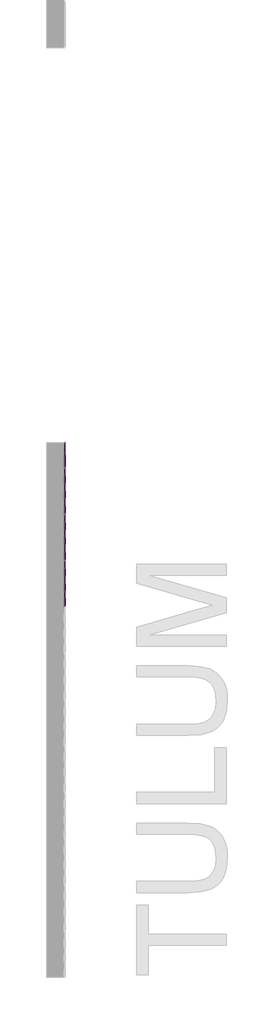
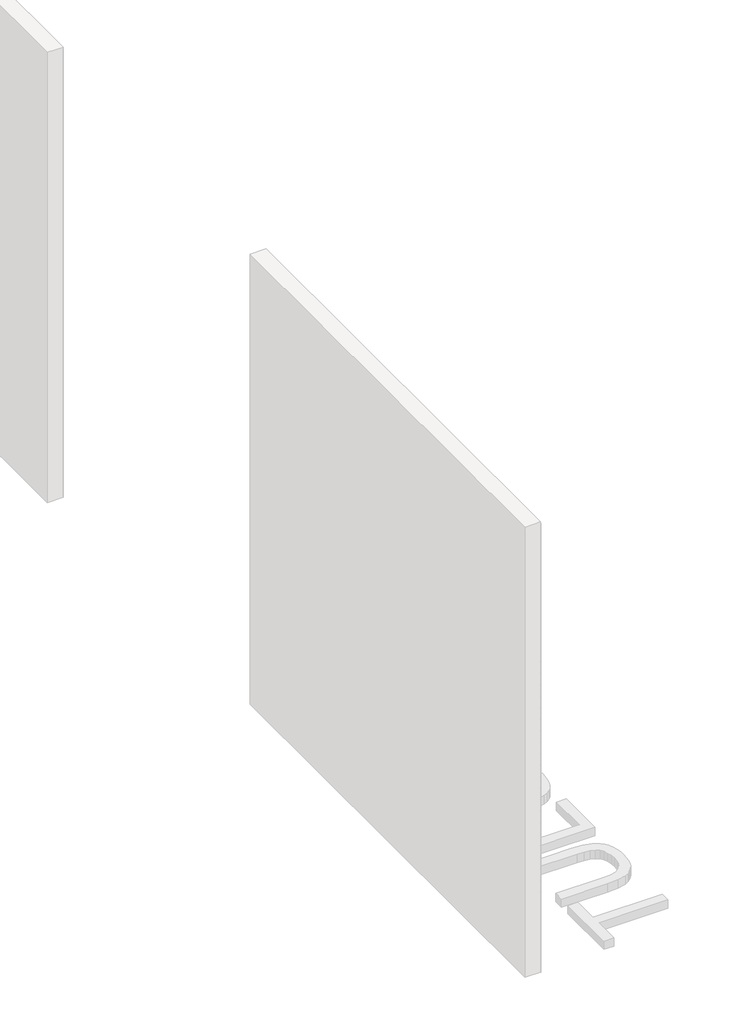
# One storey, part 38 of 45: 147 proxies.
"""IFC4 building model written with IfcOpenShell, lengths in millimetres."""

from ifc_helpers import new_model, si_unit, origin, place, context, project, spatial, transform, mapped, element, save
from components import generic_models_ab0f2c30, generic_models_8360c89e

model = new_model("IFC4")

# Units and contexts
model_context = context("Model", 3, world=origin())
ifc_project = project(units=[si_unit("LENGTHUNIT", "METRE", prefix="MILLI")], contexts=[model_context])

# Site, building, storey
site = spatial("IfcSite", under=ifc_project)
building = spatial("IfcBuilding", under=site)
storey = spatial("IfcBuildingStorey", under=building, Name="PORTOBELLO - SHOWROOM", Elevation=0.0)

# Proxies
placement = place(None, origin())
generic_models_shape = generic_models_ab0f2c30(model_context)
element("IfcBuildingElementProxy", 1, Name="PBSHOP - HORIZONTES TULUM 6,5X23 : TULUM", ObjectType="PBSHOP - HORIZONTES TULUM 6,5X23 : TULUM", at=placement, inside=storey, context=model_context, shape_type="MappedRepresentation", body=[
    mapped(generic_models_shape, transform((69111.8826867, 17292.0588567, 172.5), x_axis=(0.0, 0.0, 1.0), y_axis=(0.0, -1.0, 0.0), z_axis=(1.0, 0.0, 0.0))),
])
element("IfcBuildingElementProxy", 2, Name="PBSHOP - HORIZONTES TULUM 6,5X23 : TULUM", ObjectType="PBSHOP - HORIZONTES TULUM 6,5X23 : TULUM", at=placement, inside=storey, context=model_context, shape_type="MappedRepresentation", body=[
    mapped(generic_models_shape, transform((69111.8826867, 17526.0588567, 172.5), x_axis=(0.0, 0.0, 1.0), y_axis=(0.0, -1.0, 0.0), z_axis=(1.0, 0.0, 0.0))),
])
element("IfcBuildingElementProxy", 3, Name="PBSHOP - HORIZONTES TULUM 6,5X23 : TULUM", ObjectType="PBSHOP - HORIZONTES TULUM 6,5X23 : TULUM", at=placement, inside=storey, context=model_context, shape_type="MappedRepresentation", body=[
    mapped(generic_models_shape, transform((69111.8826867, 17058.0588567, 241.5), x_axis=(0.0, 0.0, 1.0), y_axis=(0.0, -1.0, 0.0), z_axis=(1.0, 0.0, 0.0))),
])
element("IfcBuildingElementProxy", 4, Name="PBSHOP - HORIZONTES TULUM 6,5X23 : TULUM", ObjectType="PBSHOP - HORIZONTES TULUM 6,5X23 : TULUM", at=placement, inside=storey, context=model_context, shape_type="MappedRepresentation", body=[
    mapped(generic_models_shape, transform((69111.8826867, 17292.0588567, 241.5), x_axis=(0.0, 0.0, 1.0), y_axis=(0.0, -1.0, 0.0), z_axis=(1.0, 0.0, 0.0))),
])
element("IfcBuildingElementProxy", 5, Name="PBSHOP - HORIZONTES TULUM 6,5X23 : TULUM", ObjectType="PBSHOP - HORIZONTES TULUM 6,5X23 : TULUM", at=placement, inside=storey, context=model_context, shape_type="MappedRepresentation", body=[
    mapped(generic_models_shape, transform((69111.8826867, 17526.0588567, 241.5), x_axis=(0.0, 0.0, 1.0), y_axis=(0.0, -1.0, 0.0), z_axis=(1.0, 0.0, 0.0))),
])
element("IfcBuildingElementProxy", 6, Name="PBSHOP - HORIZONTES TULUM 6,5X23 : TULUM", ObjectType="PBSHOP - HORIZONTES TULUM 6,5X23 : TULUM", at=placement, inside=storey, context=model_context, shape_type="MappedRepresentation", body=[
    mapped(generic_models_shape, transform((69111.8826867, 17058.0588567, 310.5), x_axis=(0.0, 0.0, 1.0), y_axis=(0.0, -1.0, 0.0), z_axis=(1.0, 0.0, 0.0))),
])
element("IfcBuildingElementProxy", 7, Name="PBSHOP - HORIZONTES TULUM 6,5X23 : TULUM", ObjectType="PBSHOP - HORIZONTES TULUM 6,5X23 : TULUM", at=placement, inside=storey, context=model_context, shape_type="MappedRepresentation", body=[
    mapped(generic_models_shape, transform((69111.8826867, 17292.0588567, 310.5), x_axis=(0.0, 0.0, 1.0), y_axis=(0.0, -1.0, 0.0), z_axis=(1.0, 0.0, 0.0))),
])
element("IfcBuildingElementProxy", 8, Name="PBSHOP - HORIZONTES TULUM 6,5X23 : TULUM", ObjectType="PBSHOP - HORIZONTES TULUM 6,5X23 : TULUM", at=placement, inside=storey, context=model_context, shape_type="MappedRepresentation", body=[
    mapped(generic_models_shape, transform((69111.8826867, 17526.0588567, 310.5), x_axis=(0.0, 0.0, 1.0), y_axis=(0.0, -1.0, 0.0), z_axis=(1.0, 0.0, 0.0))),
])
element("IfcBuildingElementProxy", 9, Name="PBSHOP - HORIZONTES TULUM 6,5X23 : TULUM", ObjectType="PBSHOP - HORIZONTES TULUM 6,5X23 : TULUM", at=placement, inside=storey, context=model_context, shape_type="MappedRepresentation", body=[
    mapped(generic_models_shape, transform((69111.8826867, 17058.0588567, 379.5), x_axis=(0.0, 0.0, 1.0), y_axis=(0.0, -1.0, 0.0), z_axis=(1.0, 0.0, 0.0))),
])
element("IfcBuildingElementProxy", 10, Name="PBSHOP - HORIZONTES TULUM 6,5X23 : TULUM", ObjectType="PBSHOP - HORIZONTES TULUM 6,5X23 : TULUM", at=placement, inside=storey, context=model_context, shape_type="MappedRepresentation", body=[
    mapped(generic_models_shape, transform((69111.8826867, 17292.0588567, 379.5), x_axis=(0.0, 0.0, 1.0), y_axis=(0.0, -1.0, 0.0), z_axis=(1.0, 0.0, 0.0))),
])
element("IfcBuildingElementProxy", 11, Name="PBSHOP - HORIZONTES TULUM 6,5X23 : TULUM", ObjectType="PBSHOP - HORIZONTES TULUM 6,5X23 : TULUM", at=placement, inside=storey, context=model_context, shape_type="MappedRepresentation", body=[
    mapped(generic_models_shape, transform((69111.8826867, 17526.0588567, 379.5), x_axis=(0.0, 0.0, 1.0), y_axis=(0.0, -1.0, 0.0), z_axis=(1.0, 0.0, 0.0))),
])
element("IfcBuildingElementProxy", 12, Name="PBSHOP - HORIZONTES TULUM 6,5X23 : TULUM", ObjectType="PBSHOP - HORIZONTES TULUM 6,5X23 : TULUM", at=placement, inside=storey, context=model_context, shape_type="MappedRepresentation", body=[
    mapped(generic_models_shape, transform((69111.8826867, 17058.0588567, 448.5), x_axis=(0.0, 0.0, 1.0), y_axis=(0.0, -1.0, 0.0), z_axis=(1.0, 0.0, 0.0))),
])
element("IfcBuildingElementProxy", 13, Name="PBSHOP - HORIZONTES TULUM 6,5X23 : TULUM", ObjectType="PBSHOP - HORIZONTES TULUM 6,5X23 : TULUM", at=placement, inside=storey, context=model_context, shape_type="MappedRepresentation", body=[
    mapped(generic_models_shape, transform((69111.8826867, 17292.0588567, 448.5), x_axis=(0.0, 0.0, 1.0), y_axis=(0.0, -1.0, 0.0), z_axis=(1.0, 0.0, 0.0))),
])
element("IfcBuildingElementProxy", 14, Name="PBSHOP - HORIZONTES TULUM 6,5X23 : TULUM", ObjectType="PBSHOP - HORIZONTES TULUM 6,5X23 : TULUM", at=placement, inside=storey, context=model_context, shape_type="MappedRepresentation", body=[
    mapped(generic_models_shape, transform((69111.8826867, 17526.0588567, 448.5), x_axis=(0.0, 0.0, 1.0), y_axis=(0.0, -1.0, 0.0), z_axis=(1.0, 0.0, 0.0))),
])
element("IfcBuildingElementProxy", 15, Name="PBSHOP - HORIZONTES TULUM 6,5X23 : TULUM", ObjectType="PBSHOP - HORIZONTES TULUM 6,5X23 : TULUM", at=placement, inside=storey, context=model_context, shape_type="MappedRepresentation", body=[
    mapped(generic_models_shape, transform((69111.8826867, 17058.0588567, 517.5), x_axis=(0.0, 0.0, 1.0), y_axis=(0.0, -1.0, 0.0), z_axis=(1.0, 0.0, 0.0))),
])
element("IfcBuildingElementProxy", 16, Name="PBSHOP - HORIZONTES TULUM 6,5X23 : TULUM", ObjectType="PBSHOP - HORIZONTES TULUM 6,5X23 : TULUM", at=placement, inside=storey, context=model_context, shape_type="MappedRepresentation", body=[
    mapped(generic_models_shape, transform((69111.8826867, 17292.0588567, 517.5), x_axis=(0.0, 0.0, 1.0), y_axis=(0.0, -1.0, 0.0), z_axis=(1.0, 0.0, 0.0))),
])
element("IfcBuildingElementProxy", 17, Name="PBSHOP - HORIZONTES TULUM 6,5X23 : TULUM", ObjectType="PBSHOP - HORIZONTES TULUM 6,5X23 : TULUM", at=placement, inside=storey, context=model_context, shape_type="MappedRepresentation", body=[
    mapped(generic_models_shape, transform((69111.8826867, 17526.0588567, 517.5), x_axis=(0.0, 0.0, 1.0), y_axis=(0.0, -1.0, 0.0), z_axis=(1.0, 0.0, 0.0))),
])
element("IfcBuildingElementProxy", 18, Name="PBSHOP - HORIZONTES TULUM 6,5X23 : TULUM", ObjectType="PBSHOP - HORIZONTES TULUM 6,5X23 : TULUM", at=placement, inside=storey, context=model_context, shape_type="MappedRepresentation", body=[
    mapped(generic_models_shape, transform((69111.8826867, 17058.0588567, 586.5), x_axis=(0.0, 0.0, 1.0), y_axis=(0.0, -1.0, 0.0), z_axis=(1.0, 0.0, 0.0))),
])
element("IfcBuildingElementProxy", 19, Name="PBSHOP - HORIZONTES TULUM 6,5X23 : TULUM", ObjectType="PBSHOP - HORIZONTES TULUM 6,5X23 : TULUM", at=placement, inside=storey, context=model_context, shape_type="MappedRepresentation", body=[
    mapped(generic_models_shape, transform((69111.8826867, 17292.0588567, 586.5), x_axis=(0.0, 0.0, 1.0), y_axis=(0.0, -1.0, 0.0), z_axis=(1.0, 0.0, 0.0))),
])
element("IfcBuildingElementProxy", 20, Name="PBSHOP - HORIZONTES TULUM 6,5X23 : TULUM", ObjectType="PBSHOP - HORIZONTES TULUM 6,5X23 : TULUM", at=placement, inside=storey, context=model_context, shape_type="MappedRepresentation", body=[
    mapped(generic_models_shape, transform((69111.8826867, 17526.0588567, 586.5), x_axis=(0.0, 0.0, 1.0), y_axis=(0.0, -1.0, 0.0), z_axis=(1.0, 0.0, 0.0))),
])
element("IfcBuildingElementProxy", 21, Name="PBSHOP - HORIZONTES TULUM 6,5X23 : TULUM", ObjectType="PBSHOP - HORIZONTES TULUM 6,5X23 : TULUM", at=placement, inside=storey, context=model_context, shape_type="MappedRepresentation", body=[
    mapped(generic_models_shape, transform((69111.8826867, 17058.0588567, 655.5), x_axis=(0.0, 0.0, 1.0), y_axis=(0.0, -1.0, 0.0), z_axis=(1.0, 0.0, 0.0))),
])
element("IfcBuildingElementProxy", 22, Name="PBSHOP - HORIZONTES TULUM 6,5X23 : TULUM", ObjectType="PBSHOP - HORIZONTES TULUM 6,5X23 : TULUM", at=placement, inside=storey, context=model_context, shape_type="MappedRepresentation", body=[
    mapped(generic_models_shape, transform((69111.8826867, 17292.0588567, 655.5), x_axis=(0.0, 0.0, 1.0), y_axis=(0.0, -1.0, 0.0), z_axis=(1.0, 0.0, 0.0))),
])
element("IfcBuildingElementProxy", 23, Name="PBSHOP - HORIZONTES TULUM 6,5X23 : TULUM", ObjectType="PBSHOP - HORIZONTES TULUM 6,5X23 : TULUM", at=placement, inside=storey, context=model_context, shape_type="MappedRepresentation", body=[
    mapped(generic_models_shape, transform((69111.8826867, 17526.0588567, 655.5), x_axis=(0.0, 0.0, 1.0), y_axis=(0.0, -1.0, 0.0), z_axis=(1.0, 0.0, 0.0))),
])
element("IfcBuildingElementProxy", 24, Name="PBSHOP - HORIZONTES TULUM 6,5X23 : TULUM", ObjectType="PBSHOP - HORIZONTES TULUM 6,5X23 : TULUM", at=placement, inside=storey, context=model_context, shape_type="MappedRepresentation", body=[
    mapped(generic_models_shape, transform((69111.8826867, 17058.0588567, 724.5), x_axis=(0.0, 0.0, 1.0), y_axis=(0.0, -1.0, 0.0), z_axis=(1.0, 0.0, 0.0))),
])
element("IfcBuildingElementProxy", 25, Name="PBSHOP - HORIZONTES TULUM 6,5X23 : TULUM", ObjectType="PBSHOP - HORIZONTES TULUM 6,5X23 : TULUM", at=placement, inside=storey, context=model_context, shape_type="MappedRepresentation", body=[
    mapped(generic_models_shape, transform((69111.8826867, 17292.0588567, 724.5), x_axis=(0.0, 0.0, 1.0), y_axis=(0.0, -1.0, 0.0), z_axis=(1.0, 0.0, 0.0))),
])
element("IfcBuildingElementProxy", 26, Name="PBSHOP - HORIZONTES TULUM 6,5X23 : TULUM", ObjectType="PBSHOP - HORIZONTES TULUM 6,5X23 : TULUM", at=placement, inside=storey, context=model_context, shape_type="MappedRepresentation", body=[
    mapped(generic_models_shape, transform((69111.8826867, 17526.0588567, 724.5), x_axis=(0.0, 0.0, 1.0), y_axis=(0.0, -1.0, 0.0), z_axis=(1.0, 0.0, 0.0))),
])
element("IfcBuildingElementProxy", 27, Name="PBSHOP - HORIZONTES TULUM 6,5X23 : TULUM", ObjectType="PBSHOP - HORIZONTES TULUM 6,5X23 : TULUM", at=placement, inside=storey, context=model_context, shape_type="MappedRepresentation", body=[
    mapped(generic_models_shape, transform((69111.8826867, 17058.0588567, 793.5), x_axis=(0.0, 0.0, 1.0), y_axis=(0.0, -1.0, 0.0), z_axis=(1.0, 0.0, 0.0))),
])
element("IfcBuildingElementProxy", 28, Name="PBSHOP - HORIZONTES TULUM 6,5X23 : TULUM", ObjectType="PBSHOP - HORIZONTES TULUM 6,5X23 : TULUM", at=placement, inside=storey, context=model_context, shape_type="MappedRepresentation", body=[
    mapped(generic_models_shape, transform((69111.8826867, 17292.0588567, 793.5), x_axis=(0.0, 0.0, 1.0), y_axis=(0.0, -1.0, 0.0), z_axis=(1.0, 0.0, 0.0))),
])
element("IfcBuildingElementProxy", 29, Name="PBSHOP - HORIZONTES TULUM 6,5X23 : TULUM", ObjectType="PBSHOP - HORIZONTES TULUM 6,5X23 : TULUM", at=placement, inside=storey, context=model_context, shape_type="MappedRepresentation", body=[
    mapped(generic_models_shape, transform((69111.8826867, 17526.0588567, 793.5), x_axis=(0.0, 0.0, 1.0), y_axis=(0.0, -1.0, 0.0), z_axis=(1.0, 0.0, 0.0))),
])
element("IfcBuildingElementProxy", 30, Name="PBSHOP - HORIZONTES TULUM 6,5X23 : TULUM", ObjectType="PBSHOP - HORIZONTES TULUM 6,5X23 : TULUM", at=placement, inside=storey, context=model_context, shape_type="MappedRepresentation", body=[
    mapped(generic_models_shape, transform((69111.8826867, 17058.0588567, 862.5), x_axis=(0.0, 0.0, 1.0), y_axis=(0.0, -1.0, 0.0), z_axis=(1.0, 0.0, 0.0))),
])
element("IfcBuildingElementProxy", 31, Name="PBSHOP - HORIZONTES TULUM 6,5X23 : TULUM", ObjectType="PBSHOP - HORIZONTES TULUM 6,5X23 : TULUM", at=placement, inside=storey, context=model_context, shape_type="MappedRepresentation", body=[
    mapped(generic_models_shape, transform((69111.8826867, 17292.0588567, 862.5), x_axis=(0.0, 0.0, 1.0), y_axis=(0.0, -1.0, 0.0), z_axis=(1.0, 0.0, 0.0))),
])
element("IfcBuildingElementProxy", 32, Name="PBSHOP - HORIZONTES TULUM 6,5X23 : TULUM", ObjectType="PBSHOP - HORIZONTES TULUM 6,5X23 : TULUM", at=placement, inside=storey, context=model_context, shape_type="MappedRepresentation", body=[
    mapped(generic_models_shape, transform((69111.8826867, 17526.0588567, 862.5), x_axis=(0.0, 0.0, 1.0), y_axis=(0.0, -1.0, 0.0), z_axis=(1.0, 0.0, 0.0))),
])
element("IfcBuildingElementProxy", 33, Name="PBSHOP - HORIZONTES TULUM 6,5X23 : TULUM", ObjectType="PBSHOP - HORIZONTES TULUM 6,5X23 : TULUM", at=placement, inside=storey, context=model_context, shape_type="MappedRepresentation", body=[
    mapped(generic_models_shape, transform((69111.8826867, 17058.0588567, 931.5), x_axis=(0.0, 0.0, 1.0), y_axis=(0.0, -1.0, 0.0), z_axis=(1.0, 0.0, 0.0))),
])
element("IfcBuildingElementProxy", 34, Name="PBSHOP - HORIZONTES TULUM 6,5X23 : TULUM", ObjectType="PBSHOP - HORIZONTES TULUM 6,5X23 : TULUM", at=placement, inside=storey, context=model_context, shape_type="MappedRepresentation", body=[
    mapped(generic_models_shape, transform((69111.8826867, 17292.0588567, 931.5), x_axis=(0.0, 0.0, 1.0), y_axis=(0.0, -1.0, 0.0), z_axis=(1.0, 0.0, 0.0))),
])
element("IfcBuildingElementProxy", 35, Name="PBSHOP - HORIZONTES TULUM 6,5X23 : TULUM", ObjectType="PBSHOP - HORIZONTES TULUM 6,5X23 : TULUM", at=placement, inside=storey, context=model_context, shape_type="MappedRepresentation", body=[
    mapped(generic_models_shape, transform((69111.8826867, 17526.0588567, 931.5), x_axis=(0.0, 0.0, 1.0), y_axis=(0.0, -1.0, 0.0), z_axis=(1.0, 0.0, 0.0))),
])
element("IfcBuildingElementProxy", 36, Name="PBSHOP - HORIZONTES TULUM 6,5X23 : TULUM", ObjectType="PBSHOP - HORIZONTES TULUM 6,5X23 : TULUM", at=placement, inside=storey, context=model_context, shape_type="MappedRepresentation", body=[
    mapped(generic_models_shape, transform((69111.8826867, 17058.0588567, 1000.5), x_axis=(0.0, 0.0, 1.0), y_axis=(0.0, -1.0, 0.0), z_axis=(1.0, 0.0, 0.0))),
])
element("IfcBuildingElementProxy", 37, Name="PBSHOP - HORIZONTES TULUM 6,5X23 : TULUM", ObjectType="PBSHOP - HORIZONTES TULUM 6,5X23 : TULUM", at=placement, inside=storey, context=model_context, shape_type="MappedRepresentation", body=[
    mapped(generic_models_shape, transform((69111.8826867, 17292.0588567, 1000.5), x_axis=(0.0, 0.0, 1.0), y_axis=(0.0, -1.0, 0.0), z_axis=(1.0, 0.0, 0.0))),
])
element("IfcBuildingElementProxy", 38, Name="PBSHOP - HORIZONTES TULUM 6,5X23 : TULUM", ObjectType="PBSHOP - HORIZONTES TULUM 6,5X23 : TULUM", at=placement, inside=storey, context=model_context, shape_type="MappedRepresentation", body=[
    mapped(generic_models_shape, transform((69111.8826867, 17526.0588567, 1000.5), x_axis=(0.0, 0.0, 1.0), y_axis=(0.0, -1.0, 0.0), z_axis=(1.0, 0.0, 0.0))),
])
element("IfcBuildingElementProxy", 39, Name="PBSHOP - HORIZONTES TULUM 6,5X23 : TULUM", ObjectType="PBSHOP - HORIZONTES TULUM 6,5X23 : TULUM", at=placement, inside=storey, context=model_context, shape_type="MappedRepresentation", body=[
    mapped(generic_models_shape, transform((69111.8826867, 17058.0588567, 1069.5), x_axis=(0.0, 0.0, 1.0), y_axis=(0.0, -1.0, 0.0), z_axis=(1.0, 0.0, 0.0))),
])
element("IfcBuildingElementProxy", 40, Name="PBSHOP - HORIZONTES TULUM 6,5X23 : TULUM", ObjectType="PBSHOP - HORIZONTES TULUM 6,5X23 : TULUM", at=placement, inside=storey, context=model_context, shape_type="MappedRepresentation", body=[
    mapped(generic_models_shape, transform((69111.8826867, 17292.0588567, 1069.5), x_axis=(0.0, 0.0, 1.0), y_axis=(0.0, -1.0, 0.0), z_axis=(1.0, 0.0, 0.0))),
])
element("IfcBuildingElementProxy", 41, Name="PBSHOP - HORIZONTES TULUM 6,5X23 : TULUM", ObjectType="PBSHOP - HORIZONTES TULUM 6,5X23 : TULUM", at=placement, inside=storey, context=model_context, shape_type="MappedRepresentation", body=[
    mapped(generic_models_shape, transform((69111.8826867, 17526.0588567, 1069.5), x_axis=(0.0, 0.0, 1.0), y_axis=(0.0, -1.0, 0.0), z_axis=(1.0, 0.0, 0.0))),
])
element("IfcBuildingElementProxy", 42, Name="PBSHOP - HORIZONTES TULUM 6,5X23 : TULUM", ObjectType="PBSHOP - HORIZONTES TULUM 6,5X23 : TULUM", at=placement, inside=storey, context=model_context, shape_type="MappedRepresentation", body=[
    mapped(generic_models_shape, transform((69111.8826867, 17058.0588567, 1138.5), x_axis=(0.0, 0.0, 1.0), y_axis=(0.0, -1.0, 0.0), z_axis=(1.0, 0.0, 0.0))),
])
element("IfcBuildingElementProxy", 43, Name="PBSHOP - HORIZONTES TULUM 6,5X23 : TULUM", ObjectType="PBSHOP - HORIZONTES TULUM 6,5X23 : TULUM", at=placement, inside=storey, context=model_context, shape_type="MappedRepresentation", body=[
    mapped(generic_models_shape, transform((69111.8826867, 17292.0588567, 1138.5), x_axis=(0.0, 0.0, 1.0), y_axis=(0.0, -1.0, 0.0), z_axis=(1.0, 0.0, 0.0))),
])
element("IfcBuildingElementProxy", 44, Name="PBSHOP - HORIZONTES TULUM 6,5X23 : TULUM", ObjectType="PBSHOP - HORIZONTES TULUM 6,5X23 : TULUM", at=placement, inside=storey, context=model_context, shape_type="MappedRepresentation", body=[
    mapped(generic_models_shape, transform((69111.8826867, 17526.0588567, 1138.5), x_axis=(0.0, 0.0, 1.0), y_axis=(0.0, -1.0, 0.0), z_axis=(1.0, 0.0, 0.0))),
])
element("IfcBuildingElementProxy", 45, Name="PBSHOP - HORIZONTES TULUM 6,5X23 : TULUM", ObjectType="PBSHOP - HORIZONTES TULUM 6,5X23 : TULUM", at=placement, inside=storey, context=model_context, shape_type="MappedRepresentation", body=[
    mapped(generic_models_shape, transform((69111.8826867, 17058.0588567, 1207.5), x_axis=(0.0, 0.0, 1.0), y_axis=(0.0, -1.0, 0.0), z_axis=(1.0, 0.0, 0.0))),
])
element("IfcBuildingElementProxy", 46, Name="PBSHOP - HORIZONTES TULUM 6,5X23 : TULUM", ObjectType="PBSHOP - HORIZONTES TULUM 6,5X23 : TULUM", at=placement, inside=storey, context=model_context, shape_type="MappedRepresentation", body=[
    mapped(generic_models_shape, transform((69111.8826867, 17292.0588567, 1207.5), x_axis=(0.0, 0.0, 1.0), y_axis=(0.0, -1.0, 0.0), z_axis=(1.0, 0.0, 0.0))),
])
element("IfcBuildingElementProxy", 47, Name="PBSHOP - HORIZONTES TULUM 6,5X23 : TULUM", ObjectType="PBSHOP - HORIZONTES TULUM 6,5X23 : TULUM", at=placement, inside=storey, context=model_context, shape_type="MappedRepresentation", body=[
    mapped(generic_models_shape, transform((69111.8826867, 17526.0588567, 1207.5), x_axis=(0.0, 0.0, 1.0), y_axis=(0.0, -1.0, 0.0), z_axis=(1.0, 0.0, 0.0))),
])
element("IfcBuildingElementProxy", 48, Name="PBSHOP - HORIZONTES TULUM 6,5X23 : TULUM", ObjectType="PBSHOP - HORIZONTES TULUM 6,5X23 : TULUM", at=placement, inside=storey, context=model_context, shape_type="MappedRepresentation", body=[
    mapped(generic_models_shape, transform((69111.8826867, 17058.0588567, 1276.5), x_axis=(0.0, 0.0, 1.0), y_axis=(0.0, -1.0, 0.0), z_axis=(1.0, 0.0, 0.0))),
])
element("IfcBuildingElementProxy", 49, Name="PBSHOP - HORIZONTES TULUM 6,5X23 : TULUM", ObjectType="PBSHOP - HORIZONTES TULUM 6,5X23 : TULUM", at=placement, inside=storey, context=model_context, shape_type="MappedRepresentation", body=[
    mapped(generic_models_shape, transform((69111.8826867, 17292.0588567, 1276.5), x_axis=(0.0, 0.0, 1.0), y_axis=(0.0, -1.0, 0.0), z_axis=(1.0, 0.0, 0.0))),
])
element("IfcBuildingElementProxy", 50, Name="PBSHOP - HORIZONTES TULUM 6,5X23 : TULUM", ObjectType="PBSHOP - HORIZONTES TULUM 6,5X23 : TULUM", at=placement, inside=storey, context=model_context, shape_type="MappedRepresentation", body=[
    mapped(generic_models_shape, transform((69111.8826867, 17526.0588567, 1276.5), x_axis=(0.0, 0.0, 1.0), y_axis=(0.0, -1.0, 0.0), z_axis=(1.0, 0.0, 0.0))),
])
element("IfcBuildingElementProxy", 51, Name="PBSHOP - HORIZONTES TULUM 6,5X23 : TULUM", ObjectType="PBSHOP - HORIZONTES TULUM 6,5X23 : TULUM", at=placement, inside=storey, context=model_context, shape_type="MappedRepresentation", body=[
    mapped(generic_models_shape, transform((69111.8826867, 17058.0588567, 1345.5), x_axis=(0.0, 0.0, 1.0), y_axis=(0.0, -1.0, 0.0), z_axis=(1.0, 0.0, 0.0))),
])
element("IfcBuildingElementProxy", 52, Name="PBSHOP - HORIZONTES TULUM 6,5X23 : TULUM", ObjectType="PBSHOP - HORIZONTES TULUM 6,5X23 : TULUM", at=placement, inside=storey, context=model_context, shape_type="MappedRepresentation", body=[
    mapped(generic_models_shape, transform((69111.8826867, 17292.0588567, 1345.5), x_axis=(0.0, 0.0, 1.0), y_axis=(0.0, -1.0, 0.0), z_axis=(1.0, 0.0, 0.0))),
])
element("IfcBuildingElementProxy", 53, Name="PBSHOP - HORIZONTES TULUM 6,5X23 : TULUM", ObjectType="PBSHOP - HORIZONTES TULUM 6,5X23 : TULUM", at=placement, inside=storey, context=model_context, shape_type="MappedRepresentation", body=[
    mapped(generic_models_shape, transform((69111.8826867, 17526.0588567, 1345.5), x_axis=(0.0, 0.0, 1.0), y_axis=(0.0, -1.0, 0.0), z_axis=(1.0, 0.0, 0.0))),
])
element("IfcBuildingElementProxy", 54, Name="PBSHOP - HORIZONTES TULUM 6,5X23 : TULUM", ObjectType="PBSHOP - HORIZONTES TULUM 6,5X23 : TULUM", at=placement, inside=storey, context=model_context, shape_type="MappedRepresentation", body=[
    mapped(generic_models_shape, transform((69111.8826867, 17058.0588567, 1414.5), x_axis=(0.0, 0.0, 1.0), y_axis=(0.0, -1.0, 0.0), z_axis=(1.0, 0.0, 0.0))),
])
element("IfcBuildingElementProxy", 55, Name="PBSHOP - HORIZONTES TULUM 6,5X23 : TULUM", ObjectType="PBSHOP - HORIZONTES TULUM 6,5X23 : TULUM", at=placement, inside=storey, context=model_context, shape_type="MappedRepresentation", body=[
    mapped(generic_models_shape, transform((69111.8826867, 17292.0588567, 1414.5), x_axis=(0.0, 0.0, 1.0), y_axis=(0.0, -1.0, 0.0), z_axis=(1.0, 0.0, 0.0))),
])
element("IfcBuildingElementProxy", 56, Name="PBSHOP - HORIZONTES TULUM 6,5X23 : TULUM", ObjectType="PBSHOP - HORIZONTES TULUM 6,5X23 : TULUM", at=placement, inside=storey, context=model_context, shape_type="MappedRepresentation", body=[
    mapped(generic_models_shape, transform((69111.8826867, 17526.0588567, 1414.5), x_axis=(0.0, 0.0, 1.0), y_axis=(0.0, -1.0, 0.0), z_axis=(1.0, 0.0, 0.0))),
])
element("IfcBuildingElementProxy", 57, Name="PBSHOP - HORIZONTES TULUM 6,5X23 : TULUM", ObjectType="PBSHOP - HORIZONTES TULUM 6,5X23 : TULUM", at=placement, inside=storey, context=model_context, shape_type="MappedRepresentation", body=[
    mapped(generic_models_shape, transform((69111.8826867, 17058.0588567, 1483.5), x_axis=(0.0, 0.0, 1.0), y_axis=(0.0, -1.0, 0.0), z_axis=(1.0, 0.0, 0.0))),
])
element("IfcBuildingElementProxy", 58, Name="PBSHOP - HORIZONTES TULUM 6,5X23 : TULUM", ObjectType="PBSHOP - HORIZONTES TULUM 6,5X23 : TULUM", at=placement, inside=storey, context=model_context, shape_type="MappedRepresentation", body=[
    mapped(generic_models_shape, transform((69111.8826867, 17292.0588567, 1483.5), x_axis=(0.0, 0.0, 1.0), y_axis=(0.0, -1.0, 0.0), z_axis=(1.0, 0.0, 0.0))),
])
element("IfcBuildingElementProxy", 59, Name="PBSHOP - HORIZONTES TULUM 6,5X23 : TULUM", ObjectType="PBSHOP - HORIZONTES TULUM 6,5X23 : TULUM", at=placement, inside=storey, context=model_context, shape_type="MappedRepresentation", body=[
    mapped(generic_models_shape, transform((69111.8826867, 17526.0588567, 1483.5), x_axis=(0.0, 0.0, 1.0), y_axis=(0.0, -1.0, 0.0), z_axis=(1.0, 0.0, 0.0))),
])
element("IfcBuildingElementProxy", 60, Name="PBSHOP - HORIZONTES TULUM 6,5X23 : TULUM", ObjectType="PBSHOP - HORIZONTES TULUM 6,5X23 : TULUM", at=placement, inside=storey, context=model_context, shape_type="MappedRepresentation", body=[
    mapped(generic_models_shape, transform((69111.8826867, 17058.0588567, 1552.5), x_axis=(0.0, 0.0, 1.0), y_axis=(0.0, -1.0, 0.0), z_axis=(1.0, 0.0, 0.0))),
])
element("IfcBuildingElementProxy", 61, Name="PBSHOP - HORIZONTES TULUM 6,5X23 : TULUM", ObjectType="PBSHOP - HORIZONTES TULUM 6,5X23 : TULUM", at=placement, inside=storey, context=model_context, shape_type="MappedRepresentation", body=[
    mapped(generic_models_shape, transform((69111.8826867, 17292.0588567, 1552.5), x_axis=(0.0, 0.0, 1.0), y_axis=(0.0, -1.0, 0.0), z_axis=(1.0, 0.0, 0.0))),
])
element("IfcBuildingElementProxy", 62, Name="PBSHOP - HORIZONTES TULUM 6,5X23 : TULUM", ObjectType="PBSHOP - HORIZONTES TULUM 6,5X23 : TULUM", at=placement, inside=storey, context=model_context, shape_type="MappedRepresentation", body=[
    mapped(generic_models_shape, transform((69111.8826867, 17526.0588567, 1552.5), x_axis=(0.0, 0.0, 1.0), y_axis=(0.0, -1.0, 0.0), z_axis=(1.0, 0.0, 0.0))),
])
element("IfcBuildingElementProxy", 63, Name="PBSHOP - HORIZONTES TULUM 6,5X23 : TULUM", ObjectType="PBSHOP - HORIZONTES TULUM 6,5X23 : TULUM", at=placement, inside=storey, context=model_context, shape_type="MappedRepresentation", body=[
    mapped(generic_models_shape, transform((69111.8826867, 17058.0588567, 1621.5), x_axis=(0.0, 0.0, 1.0), y_axis=(0.0, -1.0, 0.0), z_axis=(1.0, 0.0, 0.0))),
])
element("IfcBuildingElementProxy", 64, Name="PBSHOP - HORIZONTES TULUM 6,5X23 : TULUM", ObjectType="PBSHOP - HORIZONTES TULUM 6,5X23 : TULUM", at=placement, inside=storey, context=model_context, shape_type="MappedRepresentation", body=[
    mapped(generic_models_shape, transform((69111.8826867, 17292.0588567, 1621.5), x_axis=(0.0, 0.0, 1.0), y_axis=(0.0, -1.0, 0.0), z_axis=(1.0, 0.0, 0.0))),
])
element("IfcBuildingElementProxy", 65, Name="PBSHOP - HORIZONTES TULUM 6,5X23 : TULUM", ObjectType="PBSHOP - HORIZONTES TULUM 6,5X23 : TULUM", at=placement, inside=storey, context=model_context, shape_type="MappedRepresentation", body=[
    mapped(generic_models_shape, transform((69111.8826867, 17526.0588567, 1621.5), x_axis=(0.0, 0.0, 1.0), y_axis=(0.0, -1.0, 0.0), z_axis=(1.0, 0.0, 0.0))),
])
element("IfcBuildingElementProxy", 66, Name="PBSHOP - HORIZONTES TULUM 6,5X23 : TULUM", ObjectType="PBSHOP - HORIZONTES TULUM 6,5X23 : TULUM", at=placement, inside=storey, context=model_context, shape_type="MappedRepresentation", body=[
    mapped(generic_models_shape, transform((69111.8826867, 17058.0588567, 1690.5), x_axis=(0.0, 0.0, 1.0), y_axis=(0.0, -1.0, 0.0), z_axis=(1.0, 0.0, 0.0))),
])
element("IfcBuildingElementProxy", 67, Name="PBSHOP - HORIZONTES TULUM 6,5X23 : TULUM", ObjectType="PBSHOP - HORIZONTES TULUM 6,5X23 : TULUM", at=placement, inside=storey, context=model_context, shape_type="MappedRepresentation", body=[
    mapped(generic_models_shape, transform((69111.8826867, 17292.0588567, 1690.5), x_axis=(0.0, 0.0, 1.0), y_axis=(0.0, -1.0, 0.0), z_axis=(1.0, 0.0, 0.0))),
])
element("IfcBuildingElementProxy", 68, Name="PBSHOP - HORIZONTES TULUM 6,5X23 : TULUM", ObjectType="PBSHOP - HORIZONTES TULUM 6,5X23 : TULUM", at=placement, inside=storey, context=model_context, shape_type="MappedRepresentation", body=[
    mapped(generic_models_shape, transform((69111.8826867, 17526.0588567, 1690.5), x_axis=(0.0, 0.0, 1.0), y_axis=(0.0, -1.0, 0.0), z_axis=(1.0, 0.0, 0.0))),
])
element("IfcBuildingElementProxy", 69, Name="PBSHOP - HORIZONTES TULUM 6,5X23 : TULUM", ObjectType="PBSHOP - HORIZONTES TULUM 6,5X23 : TULUM", at=placement, inside=storey, context=model_context, shape_type="MappedRepresentation", body=[
    mapped(generic_models_shape, transform((69111.8826867, 17058.0588567, 1759.5), x_axis=(0.0, 0.0, 1.0), y_axis=(0.0, -1.0, 0.0), z_axis=(1.0, 0.0, 0.0))),
])
element("IfcBuildingElementProxy", 70, Name="PBSHOP - HORIZONTES TULUM 6,5X23 : TULUM", ObjectType="PBSHOP - HORIZONTES TULUM 6,5X23 : TULUM", at=placement, inside=storey, context=model_context, shape_type="MappedRepresentation", body=[
    mapped(generic_models_shape, transform((69111.8826867, 17292.0588567, 1759.5), x_axis=(0.0, 0.0, 1.0), y_axis=(0.0, -1.0, 0.0), z_axis=(1.0, 0.0, 0.0))),
])
element("IfcBuildingElementProxy", 71, Name="PBSHOP - HORIZONTES TULUM 6,5X23 : TULUM", ObjectType="PBSHOP - HORIZONTES TULUM 6,5X23 : TULUM", at=placement, inside=storey, context=model_context, shape_type="MappedRepresentation", body=[
    mapped(generic_models_shape, transform((69111.8826867, 17526.0588567, 1759.5), x_axis=(0.0, 0.0, 1.0), y_axis=(0.0, -1.0, 0.0), z_axis=(1.0, 0.0, 0.0))),
])
element("IfcBuildingElementProxy", 72, Name="PBSHOP - HORIZONTES TULUM 6,5X23 : TULUM", ObjectType="PBSHOP - HORIZONTES TULUM 6,5X23 : TULUM", at=placement, inside=storey, context=model_context, shape_type="MappedRepresentation", body=[
    mapped(generic_models_shape, transform((69111.8826867, 17058.0588567, 1828.5), x_axis=(0.0, 0.0, 1.0), y_axis=(0.0, -1.0, 0.0), z_axis=(1.0, 0.0, 0.0))),
])
element("IfcBuildingElementProxy", 73, Name="PBSHOP - HORIZONTES TULUM 6,5X23 : TULUM", ObjectType="PBSHOP - HORIZONTES TULUM 6,5X23 : TULUM", at=placement, inside=storey, context=model_context, shape_type="MappedRepresentation", body=[
    mapped(generic_models_shape, transform((69111.8826867, 17292.0588567, 1828.5), x_axis=(0.0, 0.0, 1.0), y_axis=(0.0, -1.0, 0.0), z_axis=(1.0, 0.0, 0.0))),
])
element("IfcBuildingElementProxy", 74, Name="PBSHOP - HORIZONTES TULUM 6,5X23 : TULUM", ObjectType="PBSHOP - HORIZONTES TULUM 6,5X23 : TULUM", at=placement, inside=storey, context=model_context, shape_type="MappedRepresentation", body=[
    mapped(generic_models_shape, transform((69111.8826867, 17526.0588567, 1828.5), x_axis=(0.0, 0.0, 1.0), y_axis=(0.0, -1.0, 0.0), z_axis=(1.0, 0.0, 0.0))),
])
element("IfcBuildingElementProxy", 75, Name="PBSHOP - HORIZONTES TULUM 6,5X23 : TULUM", ObjectType="PBSHOP - HORIZONTES TULUM 6,5X23 : TULUM", at=placement, inside=storey, context=model_context, shape_type="MappedRepresentation", body=[
    mapped(generic_models_shape, transform((69111.8826867, 17058.0588567, 1897.5), x_axis=(0.0, 0.0, 1.0), y_axis=(0.0, -1.0, 0.0), z_axis=(1.0, 0.0, 0.0))),
])
element("IfcBuildingElementProxy", 76, Name="PBSHOP - HORIZONTES TULUM 6,5X23 : TULUM", ObjectType="PBSHOP - HORIZONTES TULUM 6,5X23 : TULUM", at=placement, inside=storey, context=model_context, shape_type="MappedRepresentation", body=[
    mapped(generic_models_shape, transform((69111.8826867, 17292.0588567, 1897.5), x_axis=(0.0, 0.0, 1.0), y_axis=(0.0, -1.0, 0.0), z_axis=(1.0, 0.0, 0.0))),
])
element("IfcBuildingElementProxy", 77, Name="PBSHOP - HORIZONTES TULUM 6,5X23 : TULUM", ObjectType="PBSHOP - HORIZONTES TULUM 6,5X23 : TULUM", at=placement, inside=storey, context=model_context, shape_type="MappedRepresentation", body=[
    mapped(generic_models_shape, transform((69111.8826867, 17526.0588567, 1897.5), x_axis=(0.0, 0.0, 1.0), y_axis=(0.0, -1.0, 0.0), z_axis=(1.0, 0.0, 0.0))),
])
element("IfcBuildingElementProxy", 78, Name="PBSHOP - HORIZONTES TULUM 6,5X23 : TULUM", ObjectType="PBSHOP - HORIZONTES TULUM 6,5X23 : TULUM", at=placement, inside=storey, context=model_context, shape_type="MappedRepresentation", body=[
    mapped(generic_models_shape, transform((69111.8826867, 17058.0588567, 1966.5), x_axis=(0.0, 0.0, 1.0), y_axis=(0.0, -1.0, 0.0), z_axis=(1.0, 0.0, 0.0))),
])
element("IfcBuildingElementProxy", 79, Name="PBSHOP - HORIZONTES TULUM 6,5X23 : TULUM", ObjectType="PBSHOP - HORIZONTES TULUM 6,5X23 : TULUM", at=placement, inside=storey, context=model_context, shape_type="MappedRepresentation", body=[
    mapped(generic_models_shape, transform((69111.8826867, 17292.0588567, 1966.5), x_axis=(0.0, 0.0, 1.0), y_axis=(0.0, -1.0, 0.0), z_axis=(1.0, 0.0, 0.0))),
])
element("IfcBuildingElementProxy", 80, Name="PBSHOP - HORIZONTES TULUM 6,5X23 : TULUM", ObjectType="PBSHOP - HORIZONTES TULUM 6,5X23 : TULUM", at=placement, inside=storey, context=model_context, shape_type="MappedRepresentation", body=[
    mapped(generic_models_shape, transform((69111.8826867, 17526.0588567, 1966.5), x_axis=(0.0, 0.0, 1.0), y_axis=(0.0, -1.0, 0.0), z_axis=(1.0, 0.0, 0.0))),
])
element("IfcBuildingElementProxy", 81, Name="PBSHOP - HORIZONTES TULUM 6,5X23 : TULUM", ObjectType="PBSHOP - HORIZONTES TULUM 6,5X23 : TULUM", at=placement, inside=storey, context=model_context, shape_type="MappedRepresentation", body=[
    mapped(generic_models_shape, transform((69111.8826867, 17058.0588567, 2035.5), x_axis=(0.0, 0.0, 1.0), y_axis=(0.0, -1.0, 0.0), z_axis=(1.0, 0.0, 0.0))),
])
element("IfcBuildingElementProxy", 82, Name="PBSHOP - HORIZONTES TULUM 6,5X23 : TULUM", ObjectType="PBSHOP - HORIZONTES TULUM 6,5X23 : TULUM", at=placement, inside=storey, context=model_context, shape_type="MappedRepresentation", body=[
    mapped(generic_models_shape, transform((69111.8826867, 17292.0588567, 2035.5), x_axis=(0.0, 0.0, 1.0), y_axis=(0.0, -1.0, 0.0), z_axis=(1.0, 0.0, 0.0))),
])
element("IfcBuildingElementProxy", 83, Name="PBSHOP - HORIZONTES TULUM 6,5X23 : TULUM", ObjectType="PBSHOP - HORIZONTES TULUM 6,5X23 : TULUM", at=placement, inside=storey, context=model_context, shape_type="MappedRepresentation", body=[
    mapped(generic_models_shape, transform((69111.8826867, 17526.0588567, 2035.5), x_axis=(0.0, 0.0, 1.0), y_axis=(0.0, -1.0, 0.0), z_axis=(1.0, 0.0, 0.0))),
])
element("IfcBuildingElementProxy", 84, Name="PBSHOP - HORIZONTES TULUM 6,5X23 : TULUM", ObjectType="PBSHOP - HORIZONTES TULUM 6,5X23 : TULUM", at=placement, inside=storey, context=model_context, shape_type="MappedRepresentation", body=[
    mapped(generic_models_shape, transform((69111.8826867, 17058.0588567, 2104.5), x_axis=(0.0, 0.0, 1.0), y_axis=(0.0, -1.0, 0.0), z_axis=(1.0, 0.0, 0.0))),
])
element("IfcBuildingElementProxy", 85, Name="PBSHOP - HORIZONTES TULUM 6,5X23 : TULUM", ObjectType="PBSHOP - HORIZONTES TULUM 6,5X23 : TULUM", at=placement, inside=storey, context=model_context, shape_type="MappedRepresentation", body=[
    mapped(generic_models_shape, transform((69111.8826867, 17292.0588567, 2104.5), x_axis=(0.0, 0.0, 1.0), y_axis=(0.0, -1.0, 0.0), z_axis=(1.0, 0.0, 0.0))),
])
element("IfcBuildingElementProxy", 86, Name="PBSHOP - HORIZONTES TULUM 6,5X23 : TULUM", ObjectType="PBSHOP - HORIZONTES TULUM 6,5X23 : TULUM", at=placement, inside=storey, context=model_context, shape_type="MappedRepresentation", body=[
    mapped(generic_models_shape, transform((69111.8826867, 17526.0588567, 2104.5), x_axis=(0.0, 0.0, 1.0), y_axis=(0.0, -1.0, 0.0), z_axis=(1.0, 0.0, 0.0))),
])
element("IfcBuildingElementProxy", 87, Name="PBSHOP - HORIZONTES TULUM 6,5X23 : TULUM", ObjectType="PBSHOP - HORIZONTES TULUM 6,5X23 : TULUM", at=placement, inside=storey, context=model_context, shape_type="MappedRepresentation", body=[
    mapped(generic_models_shape, transform((69111.8826867, 17058.0588567, 2173.5), x_axis=(0.0, 0.0, 1.0), y_axis=(0.0, -1.0, 0.0), z_axis=(1.0, 0.0, 0.0))),
])
element("IfcBuildingElementProxy", 88, Name="PBSHOP - HORIZONTES TULUM 6,5X23 : TULUM", ObjectType="PBSHOP - HORIZONTES TULUM 6,5X23 : TULUM", at=placement, inside=storey, context=model_context, shape_type="MappedRepresentation", body=[
    mapped(generic_models_shape, transform((69111.8826867, 17292.0588567, 2173.5), x_axis=(0.0, 0.0, 1.0), y_axis=(0.0, -1.0, 0.0), z_axis=(1.0, 0.0, 0.0))),
])
element("IfcBuildingElementProxy", 89, Name="PBSHOP - HORIZONTES TULUM 6,5X23 : TULUM", ObjectType="PBSHOP - HORIZONTES TULUM 6,5X23 : TULUM", at=placement, inside=storey, context=model_context, shape_type="MappedRepresentation", body=[
    mapped(generic_models_shape, transform((69111.8826867, 17526.0588567, 2173.5), x_axis=(0.0, 0.0, 1.0), y_axis=(0.0, -1.0, 0.0), z_axis=(1.0, 0.0, 0.0))),
])
element("IfcBuildingElementProxy", 90, Name="PBSHOP - HORIZONTES TULUM 6,5X23 : TULUM", ObjectType="PBSHOP - HORIZONTES TULUM 6,5X23 : TULUM", at=placement, inside=storey, context=model_context, shape_type="MappedRepresentation", body=[
    mapped(generic_models_shape, transform((69111.8826867, 17058.0588567, 2242.5), x_axis=(0.0, 0.0, 1.0), y_axis=(0.0, -1.0, 0.0), z_axis=(1.0, 0.0, 0.0))),
])
element("IfcBuildingElementProxy", 91, Name="PBSHOP - HORIZONTES TULUM 6,5X23 : TULUM", ObjectType="PBSHOP - HORIZONTES TULUM 6,5X23 : TULUM", at=placement, inside=storey, context=model_context, shape_type="MappedRepresentation", body=[
    mapped(generic_models_shape, transform((69111.8826867, 17292.0588567, 2242.5), x_axis=(0.0, 0.0, 1.0), y_axis=(0.0, -1.0, 0.0), z_axis=(1.0, 0.0, 0.0))),
])
element("IfcBuildingElementProxy", 92, Name="PBSHOP - HORIZONTES TULUM 6,5X23 : TULUM", ObjectType="PBSHOP - HORIZONTES TULUM 6,5X23 : TULUM", at=placement, inside=storey, context=model_context, shape_type="MappedRepresentation", body=[
    mapped(generic_models_shape, transform((69111.8826867, 17526.0588567, 2242.5), x_axis=(0.0, 0.0, 1.0), y_axis=(0.0, -1.0, 0.0), z_axis=(1.0, 0.0, 0.0))),
])
element("IfcBuildingElementProxy", 93, Name="PBSHOP - HORIZONTES TULUM 6,5X23 : TULUM", ObjectType="PBSHOP - HORIZONTES TULUM 6,5X23 : TULUM", at=placement, inside=storey, context=model_context, shape_type="MappedRepresentation", body=[
    mapped(generic_models_shape, transform((69111.8826867, 17058.0588567, 2311.5), x_axis=(0.0, 0.0, 1.0), y_axis=(0.0, -1.0, 0.0), z_axis=(1.0, 0.0, 0.0))),
])
element("IfcBuildingElementProxy", 94, Name="PBSHOP - HORIZONTES TULUM 6,5X23 : TULUM", ObjectType="PBSHOP - HORIZONTES TULUM 6,5X23 : TULUM", at=placement, inside=storey, context=model_context, shape_type="MappedRepresentation", body=[
    mapped(generic_models_shape, transform((69111.8826867, 17292.0588567, 2311.5), x_axis=(0.0, 0.0, 1.0), y_axis=(0.0, -1.0, 0.0), z_axis=(1.0, 0.0, 0.0))),
])
element("IfcBuildingElementProxy", 95, Name="PBSHOP - HORIZONTES TULUM 6,5X23 : TULUM", ObjectType="PBSHOP - HORIZONTES TULUM 6,5X23 : TULUM", at=placement, inside=storey, context=model_context, shape_type="MappedRepresentation", body=[
    mapped(generic_models_shape, transform((69111.8826867, 17526.0588567, 2311.5), x_axis=(0.0, 0.0, 1.0), y_axis=(0.0, -1.0, 0.0), z_axis=(1.0, 0.0, 0.0))),
])
element("IfcBuildingElementProxy", 96, Name="PBSHOP - HORIZONTES TULUM 6,5X23 : TULUM", ObjectType="PBSHOP - HORIZONTES TULUM 6,5X23 : TULUM", at=placement, inside=storey, context=model_context, shape_type="MappedRepresentation", body=[
    mapped(generic_models_shape, transform((69111.8826867, 17058.0588567, 2380.5), x_axis=(0.0, 0.0, 1.0), y_axis=(0.0, -1.0, 0.0), z_axis=(1.0, 0.0, 0.0))),
])
element("IfcBuildingElementProxy", 97, Name="PBSHOP - HORIZONTES TULUM 6,5X23 : TULUM", ObjectType="PBSHOP - HORIZONTES TULUM 6,5X23 : TULUM", at=placement, inside=storey, context=model_context, shape_type="MappedRepresentation", body=[
    mapped(generic_models_shape, transform((69111.8826867, 17292.0588567, 2380.5), x_axis=(0.0, 0.0, 1.0), y_axis=(0.0, -1.0, 0.0), z_axis=(1.0, 0.0, 0.0))),
])
element("IfcBuildingElementProxy", 98, Name="PBSHOP - HORIZONTES TULUM 6,5X23 : TULUM", ObjectType="PBSHOP - HORIZONTES TULUM 6,5X23 : TULUM", at=placement, inside=storey, context=model_context, shape_type="MappedRepresentation", body=[
    mapped(generic_models_shape, transform((69111.8826867, 17526.0588567, 2380.5), x_axis=(0.0, 0.0, 1.0), y_axis=(0.0, -1.0, 0.0), z_axis=(1.0, 0.0, 0.0))),
])
element("IfcBuildingElementProxy", 99, Name="PBSHOP - HORIZONTES TULUM 6,5X23 : TULUM", ObjectType="PBSHOP - HORIZONTES TULUM 6,5X23 : TULUM", at=placement, inside=storey, context=model_context, shape_type="MappedRepresentation", body=[
    mapped(generic_models_shape, transform((69111.8826867, 17058.0588567, 2449.5), x_axis=(0.0, 0.0, 1.0), y_axis=(0.0, -1.0, 0.0), z_axis=(1.0, 0.0, 0.0))),
])
element("IfcBuildingElementProxy", 100, Name="PBSHOP - HORIZONTES TULUM 6,5X23 : TULUM", ObjectType="PBSHOP - HORIZONTES TULUM 6,5X23 : TULUM", at=placement, inside=storey, context=model_context, shape_type="MappedRepresentation", body=[
    mapped(generic_models_shape, transform((69111.8826867, 17292.0588567, 2449.5), x_axis=(0.0, 0.0, 1.0), y_axis=(0.0, -1.0, 0.0), z_axis=(1.0, 0.0, 0.0))),
])
element("IfcBuildingElementProxy", 101, Name="PBSHOP - HORIZONTES TULUM 6,5X23 : TULUM", ObjectType="PBSHOP - HORIZONTES TULUM 6,5X23 : TULUM", at=placement, inside=storey, context=model_context, shape_type="MappedRepresentation", body=[
    mapped(generic_models_shape, transform((69111.8826867, 17526.0588567, 2449.5), x_axis=(0.0, 0.0, 1.0), y_axis=(0.0, -1.0, 0.0), z_axis=(1.0, 0.0, 0.0))),
])
element("IfcBuildingElementProxy", 102, Name="PBSHOP - HORIZONTES TULUM 6,5X23 : TULUM", ObjectType="PBSHOP - HORIZONTES TULUM 6,5X23 : TULUM", at=placement, inside=storey, context=model_context, shape_type="MappedRepresentation", body=[
    mapped(generic_models_shape, transform((69111.8826867, 17058.0588567, 2518.5), x_axis=(0.0, 0.0, 1.0), y_axis=(0.0, -1.0, 0.0), z_axis=(1.0, 0.0, 0.0))),
])
element("IfcBuildingElementProxy", 103, Name="PBSHOP - HORIZONTES TULUM 6,5X23 : TULUM", ObjectType="PBSHOP - HORIZONTES TULUM 6,5X23 : TULUM", at=placement, inside=storey, context=model_context, shape_type="MappedRepresentation", body=[
    mapped(generic_models_shape, transform((69111.8826867, 17292.0588567, 2518.5), x_axis=(0.0, 0.0, 1.0), y_axis=(0.0, -1.0, 0.0), z_axis=(1.0, 0.0, 0.0))),
])
element("IfcBuildingElementProxy", 104, Name="PBSHOP - HORIZONTES TULUM 6,5X23 : TULUM", ObjectType="PBSHOP - HORIZONTES TULUM 6,5X23 : TULUM", at=placement, inside=storey, context=model_context, shape_type="MappedRepresentation", body=[
    mapped(generic_models_shape, transform((69111.8826867, 17526.0588567, 2518.5), x_axis=(0.0, 0.0, 1.0), y_axis=(0.0, -1.0, 0.0), z_axis=(1.0, 0.0, 0.0))),
])
element("IfcBuildingElementProxy", 105, Name="PBSHOP - HORIZONTES TULUM 6,5X23 : TULUM", ObjectType="PBSHOP - HORIZONTES TULUM 6,5X23 : TULUM", at=placement, inside=storey, context=model_context, shape_type="MappedRepresentation", body=[
    mapped(generic_models_shape, transform((69111.8826867, 17058.0588567, 2587.5), x_axis=(0.0, 0.0, 1.0), y_axis=(0.0, -1.0, 0.0), z_axis=(1.0, 0.0, 0.0))),
])
element("IfcBuildingElementProxy", 106, Name="PBSHOP - HORIZONTES TULUM 6,5X23 : TULUM", ObjectType="PBSHOP - HORIZONTES TULUM 6,5X23 : TULUM", at=placement, inside=storey, context=model_context, shape_type="MappedRepresentation", body=[
    mapped(generic_models_shape, transform((69111.8826867, 17292.0588567, 2587.5), x_axis=(0.0, 0.0, 1.0), y_axis=(0.0, -1.0, 0.0), z_axis=(1.0, 0.0, 0.0))),
])
element("IfcBuildingElementProxy", 107, Name="PBSHOP - HORIZONTES TULUM 6,5X23 : TULUM", ObjectType="PBSHOP - HORIZONTES TULUM 6,5X23 : TULUM", at=placement, inside=storey, context=model_context, shape_type="MappedRepresentation", body=[
    mapped(generic_models_shape, transform((69111.8826867, 17526.0588567, 2587.5), x_axis=(0.0, 0.0, 1.0), y_axis=(0.0, -1.0, 0.0), z_axis=(1.0, 0.0, 0.0))),
])
element("IfcBuildingElementProxy", 108, Name="PBSHOP - HORIZONTES TULUM 6,5X23 : TULUM", ObjectType="PBSHOP - HORIZONTES TULUM 6,5X23 : TULUM", at=placement, inside=storey, context=model_context, shape_type="MappedRepresentation", body=[
    mapped(generic_models_shape, transform((69111.8826867, 17058.0588567, 2656.5), x_axis=(0.0, 0.0, 1.0), y_axis=(0.0, -1.0, 0.0), z_axis=(1.0, 0.0, 0.0))),
])
element("IfcBuildingElementProxy", 109, Name="PBSHOP - HORIZONTES TULUM 6,5X23 : TULUM", ObjectType="PBSHOP - HORIZONTES TULUM 6,5X23 : TULUM", at=placement, inside=storey, context=model_context, shape_type="MappedRepresentation", body=[
    mapped(generic_models_shape, transform((69111.8826867, 17292.0588567, 2656.5), x_axis=(0.0, 0.0, 1.0), y_axis=(0.0, -1.0, 0.0), z_axis=(1.0, 0.0, 0.0))),
])
element("IfcBuildingElementProxy", 110, Name="PBSHOP - HORIZONTES TULUM 6,5X23 : TULUM", ObjectType="PBSHOP - HORIZONTES TULUM 6,5X23 : TULUM", at=placement, inside=storey, context=model_context, shape_type="MappedRepresentation", body=[
    mapped(generic_models_shape, transform((69111.8826867, 17526.0588567, 2656.5), x_axis=(0.0, 0.0, 1.0), y_axis=(0.0, -1.0, 0.0), z_axis=(1.0, 0.0, 0.0))),
])
generic_models_2_shape = generic_models_8360c89e(model_context)
element("IfcBuildingElementProxy", 111, Name="PBSHOP - HORIZONTES TULUM 6,5X23 : TULUM", ObjectType="PBSHOP - HORIZONTES TULUM 6,5X23 : TULUM", at=placement, inside=storey, context=model_context, shape_type="MappedRepresentation", body=[
    mapped(generic_models_2_shape, transform((69111.8826867, 17760.0588567, 172.5), x_axis=(0.0, 0.0, 1.0), y_axis=(0.0, -1.0, 0.0), z_axis=(1.0, 0.0, 0.0))),
])
element("IfcBuildingElementProxy", 112, Name="PBSHOP - HORIZONTES TULUM 6,5X23 : TULUM", ObjectType="PBSHOP - HORIZONTES TULUM 6,5X23 : TULUM", at=placement, inside=storey, context=model_context, shape_type="MappedRepresentation", body=[
    mapped(generic_models_2_shape, transform((69111.8826867, 17760.0588567, 241.5), x_axis=(0.0, 0.0, 1.0), y_axis=(0.0, -1.0, 0.0), z_axis=(1.0, 0.0, 0.0))),
])
element("IfcBuildingElementProxy", 113, Name="PBSHOP - HORIZONTES TULUM 6,5X23 : TULUM", ObjectType="PBSHOP - HORIZONTES TULUM 6,5X23 : TULUM", at=placement, inside=storey, context=model_context, shape_type="MappedRepresentation", body=[
    mapped(generic_models_2_shape, transform((69111.8826867, 17760.0588567, 310.5), x_axis=(0.0, 0.0, 1.0), y_axis=(0.0, -1.0, 0.0), z_axis=(1.0, 0.0, 0.0))),
])
element("IfcBuildingElementProxy", 114, Name="PBSHOP - HORIZONTES TULUM 6,5X23 : TULUM", ObjectType="PBSHOP - HORIZONTES TULUM 6,5X23 : TULUM", at=placement, inside=storey, context=model_context, shape_type="MappedRepresentation", body=[
    mapped(generic_models_2_shape, transform((69111.8826867, 17760.0588567, 379.5), x_axis=(0.0, 0.0, 1.0), y_axis=(0.0, -1.0, 0.0), z_axis=(1.0, 0.0, 0.0))),
])
element("IfcBuildingElementProxy", 115, Name="PBSHOP - HORIZONTES TULUM 6,5X23 : TULUM", ObjectType="PBSHOP - HORIZONTES TULUM 6,5X23 : TULUM", at=placement, inside=storey, context=model_context, shape_type="MappedRepresentation", body=[
    mapped(generic_models_2_shape, transform((69111.8826867, 17760.0588567, 448.5), x_axis=(0.0, 0.0, 1.0), y_axis=(0.0, -1.0, 0.0), z_axis=(1.0, 0.0, 0.0))),
])
element("IfcBuildingElementProxy", 116, Name="PBSHOP - HORIZONTES TULUM 6,5X23 : TULUM", ObjectType="PBSHOP - HORIZONTES TULUM 6,5X23 : TULUM", at=placement, inside=storey, context=model_context, shape_type="MappedRepresentation", body=[
    mapped(generic_models_2_shape, transform((69111.8826867, 17760.0588567, 517.5), x_axis=(0.0, 0.0, 1.0), y_axis=(0.0, -1.0, 0.0), z_axis=(1.0, 0.0, 0.0))),
])
element("IfcBuildingElementProxy", 117, Name="PBSHOP - HORIZONTES TULUM 6,5X23 : TULUM", ObjectType="PBSHOP - HORIZONTES TULUM 6,5X23 : TULUM", at=placement, inside=storey, context=model_context, shape_type="MappedRepresentation", body=[
    mapped(generic_models_2_shape, transform((69111.8826867, 17760.0588567, 586.5), x_axis=(0.0, 0.0, 1.0), y_axis=(0.0, -1.0, 0.0), z_axis=(1.0, 0.0, 0.0))),
])
element("IfcBuildingElementProxy", 118, Name="PBSHOP - HORIZONTES TULUM 6,5X23 : TULUM", ObjectType="PBSHOP - HORIZONTES TULUM 6,5X23 : TULUM", at=placement, inside=storey, context=model_context, shape_type="MappedRepresentation", body=[
    mapped(generic_models_2_shape, transform((69111.8826867, 17760.0588567, 655.5), x_axis=(0.0, 0.0, 1.0), y_axis=(0.0, -1.0, 0.0), z_axis=(1.0, 0.0, 0.0))),
])
element("IfcBuildingElementProxy", 119, Name="PBSHOP - HORIZONTES TULUM 6,5X23 : TULUM", ObjectType="PBSHOP - HORIZONTES TULUM 6,5X23 : TULUM", at=placement, inside=storey, context=model_context, shape_type="MappedRepresentation", body=[
    mapped(generic_models_2_shape, transform((69111.8826867, 17760.0588567, 724.5), x_axis=(0.0, 0.0, 1.0), y_axis=(0.0, -1.0, 0.0), z_axis=(1.0, 0.0, 0.0))),
])
element("IfcBuildingElementProxy", 120, Name="PBSHOP - HORIZONTES TULUM 6,5X23 : TULUM", ObjectType="PBSHOP - HORIZONTES TULUM 6,5X23 : TULUM", at=placement, inside=storey, context=model_context, shape_type="MappedRepresentation", body=[
    mapped(generic_models_2_shape, transform((69111.8826867, 17760.0588567, 793.5), x_axis=(0.0, 0.0, 1.0), y_axis=(0.0, -1.0, 0.0), z_axis=(1.0, 0.0, 0.0))),
])
element("IfcBuildingElementProxy", 121, Name="PBSHOP - HORIZONTES TULUM 6,5X23 : TULUM", ObjectType="PBSHOP - HORIZONTES TULUM 6,5X23 : TULUM", at=placement, inside=storey, context=model_context, shape_type="MappedRepresentation", body=[
    mapped(generic_models_2_shape, transform((69111.8826867, 17760.0588567, 862.5), x_axis=(0.0, 0.0, 1.0), y_axis=(0.0, -1.0, 0.0), z_axis=(1.0, 0.0, 0.0))),
])
element("IfcBuildingElementProxy", 122, Name="PBSHOP - HORIZONTES TULUM 6,5X23 : TULUM", ObjectType="PBSHOP - HORIZONTES TULUM 6,5X23 : TULUM", at=placement, inside=storey, context=model_context, shape_type="MappedRepresentation", body=[
    mapped(generic_models_2_shape, transform((69111.8826867, 17760.0588567, 931.5), x_axis=(0.0, 0.0, 1.0), y_axis=(0.0, -1.0, 0.0), z_axis=(1.0, 0.0, 0.0))),
])
element("IfcBuildingElementProxy", 123, Name="PBSHOP - HORIZONTES TULUM 6,5X23 : TULUM", ObjectType="PBSHOP - HORIZONTES TULUM 6,5X23 : TULUM", at=placement, inside=storey, context=model_context, shape_type="MappedRepresentation", body=[
    mapped(generic_models_2_shape, transform((69111.8826867, 17760.0588567, 1000.5), x_axis=(0.0, 0.0, 1.0), y_axis=(0.0, -1.0, 0.0), z_axis=(1.0, 0.0, 0.0))),
])
element("IfcBuildingElementProxy", 124, Name="PBSHOP - HORIZONTES TULUM 6,5X23 : TULUM", ObjectType="PBSHOP - HORIZONTES TULUM 6,5X23 : TULUM", at=placement, inside=storey, context=model_context, shape_type="MappedRepresentation", body=[
    mapped(generic_models_2_shape, transform((69111.8826867, 17760.0588567, 1069.5), x_axis=(0.0, 0.0, 1.0), y_axis=(0.0, -1.0, 0.0), z_axis=(1.0, 0.0, 0.0))),
])
element("IfcBuildingElementProxy", 125, Name="PBSHOP - HORIZONTES TULUM 6,5X23 : TULUM", ObjectType="PBSHOP - HORIZONTES TULUM 6,5X23 : TULUM", at=placement, inside=storey, context=model_context, shape_type="MappedRepresentation", body=[
    mapped(generic_models_2_shape, transform((69111.8826867, 17760.0588567, 1138.5), x_axis=(0.0, 0.0, 1.0), y_axis=(0.0, -1.0, 0.0), z_axis=(1.0, 0.0, 0.0))),
])
element("IfcBuildingElementProxy", 126, Name="PBSHOP - HORIZONTES TULUM 6,5X23 : TULUM", ObjectType="PBSHOP - HORIZONTES TULUM 6,5X23 : TULUM", at=placement, inside=storey, context=model_context, shape_type="MappedRepresentation", body=[
    mapped(generic_models_2_shape, transform((69111.8826867, 17760.0588567, 1207.5), x_axis=(0.0, 0.0, 1.0), y_axis=(0.0, -1.0, 0.0), z_axis=(1.0, 0.0, 0.0))),
])
element("IfcBuildingElementProxy", 127, Name="PBSHOP - HORIZONTES TULUM 6,5X23 : TULUM", ObjectType="PBSHOP - HORIZONTES TULUM 6,5X23 : TULUM", at=placement, inside=storey, context=model_context, shape_type="MappedRepresentation", body=[
    mapped(generic_models_2_shape, transform((69111.8826867, 17760.0588567, 1276.5), x_axis=(0.0, 0.0, 1.0), y_axis=(0.0, -1.0, 0.0), z_axis=(1.0, 0.0, 0.0))),
])
element("IfcBuildingElementProxy", 128, Name="PBSHOP - HORIZONTES TULUM 6,5X23 : TULUM", ObjectType="PBSHOP - HORIZONTES TULUM 6,5X23 : TULUM", at=placement, inside=storey, context=model_context, shape_type="MappedRepresentation", body=[
    mapped(generic_models_2_shape, transform((69111.8826867, 17760.0588567, 1345.5), x_axis=(0.0, 0.0, 1.0), y_axis=(0.0, -1.0, 0.0), z_axis=(1.0, 0.0, 0.0))),
])
element("IfcBuildingElementProxy", 129, Name="PBSHOP - HORIZONTES TULUM 6,5X23 : TULUM", ObjectType="PBSHOP - HORIZONTES TULUM 6,5X23 : TULUM", at=placement, inside=storey, context=model_context, shape_type="MappedRepresentation", body=[
    mapped(generic_models_2_shape, transform((69111.8826867, 17760.0588567, 1414.5), x_axis=(0.0, 0.0, 1.0), y_axis=(0.0, -1.0, 0.0), z_axis=(1.0, 0.0, 0.0))),
])
element("IfcBuildingElementProxy", 130, Name="PBSHOP - HORIZONTES TULUM 6,5X23 : TULUM", ObjectType="PBSHOP - HORIZONTES TULUM 6,5X23 : TULUM", at=placement, inside=storey, context=model_context, shape_type="MappedRepresentation", body=[
    mapped(generic_models_2_shape, transform((69111.8826867, 17760.0588567, 1483.5), x_axis=(0.0, 0.0, 1.0), y_axis=(0.0, -1.0, 0.0), z_axis=(1.0, 0.0, 0.0))),
])
element("IfcBuildingElementProxy", 131, Name="PBSHOP - HORIZONTES TULUM 6,5X23 : TULUM", ObjectType="PBSHOP - HORIZONTES TULUM 6,5X23 : TULUM", at=placement, inside=storey, context=model_context, shape_type="MappedRepresentation", body=[
    mapped(generic_models_2_shape, transform((69111.8826867, 17760.0588567, 1552.5), x_axis=(0.0, 0.0, 1.0), y_axis=(0.0, -1.0, 0.0), z_axis=(1.0, 0.0, 0.0))),
])
element("IfcBuildingElementProxy", 132, Name="PBSHOP - HORIZONTES TULUM 6,5X23 : TULUM", ObjectType="PBSHOP - HORIZONTES TULUM 6,5X23 : TULUM", at=placement, inside=storey, context=model_context, shape_type="MappedRepresentation", body=[
    mapped(generic_models_2_shape, transform((69111.8826867, 17760.0588567, 1621.5), x_axis=(0.0, 0.0, 1.0), y_axis=(0.0, -1.0, 0.0), z_axis=(1.0, 0.0, 0.0))),
])
element("IfcBuildingElementProxy", 133, Name="PBSHOP - HORIZONTES TULUM 6,5X23 : TULUM", ObjectType="PBSHOP - HORIZONTES TULUM 6,5X23 : TULUM", at=placement, inside=storey, context=model_context, shape_type="MappedRepresentation", body=[
    mapped(generic_models_2_shape, transform((69111.8826867, 17760.0588567, 1690.5), x_axis=(0.0, 0.0, 1.0), y_axis=(0.0, -1.0, 0.0), z_axis=(1.0, 0.0, 0.0))),
])
element("IfcBuildingElementProxy", 134, Name="PBSHOP - HORIZONTES TULUM 6,5X23 : TULUM", ObjectType="PBSHOP - HORIZONTES TULUM 6,5X23 : TULUM", at=placement, inside=storey, context=model_context, shape_type="MappedRepresentation", body=[
    mapped(generic_models_2_shape, transform((69111.8826867, 17760.0588567, 1759.5), x_axis=(0.0, 0.0, 1.0), y_axis=(0.0, -1.0, 0.0), z_axis=(1.0, 0.0, 0.0))),
])
element("IfcBuildingElementProxy", 135, Name="PBSHOP - HORIZONTES TULUM 6,5X23 : TULUM", ObjectType="PBSHOP - HORIZONTES TULUM 6,5X23 : TULUM", at=placement, inside=storey, context=model_context, shape_type="MappedRepresentation", body=[
    mapped(generic_models_2_shape, transform((69111.8826867, 17760.0588567, 1828.5), x_axis=(0.0, 0.0, 1.0), y_axis=(0.0, -1.0, 0.0), z_axis=(1.0, 0.0, 0.0))),
])
element("IfcBuildingElementProxy", 136, Name="PBSHOP - HORIZONTES TULUM 6,5X23 : TULUM", ObjectType="PBSHOP - HORIZONTES TULUM 6,5X23 : TULUM", at=placement, inside=storey, context=model_context, shape_type="MappedRepresentation", body=[
    mapped(generic_models_2_shape, transform((69111.8826867, 17760.0588567, 1897.5), x_axis=(0.0, 0.0, 1.0), y_axis=(0.0, -1.0, 0.0), z_axis=(1.0, 0.0, 0.0))),
])
element("IfcBuildingElementProxy", 137, Name="PBSHOP - HORIZONTES TULUM 6,5X23 : TULUM", ObjectType="PBSHOP - HORIZONTES TULUM 6,5X23 : TULUM", at=placement, inside=storey, context=model_context, shape_type="MappedRepresentation", body=[
    mapped(generic_models_2_shape, transform((69111.8826867, 17760.0588567, 1966.5), x_axis=(0.0, 0.0, 1.0), y_axis=(0.0, -1.0, 0.0), z_axis=(1.0, 0.0, 0.0))),
])
element("IfcBuildingElementProxy", 138, Name="PBSHOP - HORIZONTES TULUM 6,5X23 : TULUM", ObjectType="PBSHOP - HORIZONTES TULUM 6,5X23 : TULUM", at=placement, inside=storey, context=model_context, shape_type="MappedRepresentation", body=[
    mapped(generic_models_2_shape, transform((69111.8826867, 17760.0588567, 2035.5), x_axis=(0.0, 0.0, 1.0), y_axis=(0.0, -1.0, 0.0), z_axis=(1.0, 0.0, 0.0))),
])
element("IfcBuildingElementProxy", 139, Name="PBSHOP - HORIZONTES TULUM 6,5X23 : TULUM", ObjectType="PBSHOP - HORIZONTES TULUM 6,5X23 : TULUM", at=placement, inside=storey, context=model_context, shape_type="MappedRepresentation", body=[
    mapped(generic_models_2_shape, transform((69111.8826867, 17760.0588567, 2104.5), x_axis=(0.0, 0.0, 1.0), y_axis=(0.0, -1.0, 0.0), z_axis=(1.0, 0.0, 0.0))),
])
element("IfcBuildingElementProxy", 140, Name="PBSHOP - HORIZONTES TULUM 6,5X23 : TULUM", ObjectType="PBSHOP - HORIZONTES TULUM 6,5X23 : TULUM", at=placement, inside=storey, context=model_context, shape_type="MappedRepresentation", body=[
    mapped(generic_models_2_shape, transform((69111.8826867, 17760.0588567, 2173.5), x_axis=(0.0, 0.0, 1.0), y_axis=(0.0, -1.0, 0.0), z_axis=(1.0, 0.0, 0.0))),
])
element("IfcBuildingElementProxy", 141, Name="PBSHOP - HORIZONTES TULUM 6,5X23 : TULUM", ObjectType="PBSHOP - HORIZONTES TULUM 6,5X23 : TULUM", at=placement, inside=storey, context=model_context, shape_type="MappedRepresentation", body=[
    mapped(generic_models_2_shape, transform((69111.8826867, 17760.0588567, 2242.5), x_axis=(0.0, 0.0, 1.0), y_axis=(0.0, -1.0, 0.0), z_axis=(1.0, 0.0, 0.0))),
])
element("IfcBuildingElementProxy", 142, Name="PBSHOP - HORIZONTES TULUM 6,5X23 : TULUM", ObjectType="PBSHOP - HORIZONTES TULUM 6,5X23 : TULUM", at=placement, inside=storey, context=model_context, shape_type="MappedRepresentation", body=[
    mapped(generic_models_2_shape, transform((69111.8826867, 17760.0588567, 2311.5), x_axis=(0.0, 0.0, 1.0), y_axis=(0.0, -1.0, 0.0), z_axis=(1.0, 0.0, 0.0))),
])
element("IfcBuildingElementProxy", 143, Name="PBSHOP - HORIZONTES TULUM 6,5X23 : TULUM", ObjectType="PBSHOP - HORIZONTES TULUM 6,5X23 : TULUM", at=placement, inside=storey, context=model_context, shape_type="MappedRepresentation", body=[
    mapped(generic_models_2_shape, transform((69111.8826867, 17760.0588567, 2380.5), x_axis=(0.0, 0.0, 1.0), y_axis=(0.0, -1.0, 0.0), z_axis=(1.0, 0.0, 0.0))),
])
element("IfcBuildingElementProxy", 144, Name="PBSHOP - HORIZONTES TULUM 6,5X23 : TULUM", ObjectType="PBSHOP - HORIZONTES TULUM 6,5X23 : TULUM", at=placement, inside=storey, context=model_context, shape_type="MappedRepresentation", body=[
    mapped(generic_models_2_shape, transform((69111.8826867, 17760.0588567, 2449.5), x_axis=(0.0, 0.0, 1.0), y_axis=(0.0, -1.0, 0.0), z_axis=(1.0, 0.0, 0.0))),
])
element("IfcBuildingElementProxy", 145, Name="PBSHOP - HORIZONTES TULUM 6,5X23 : TULUM", ObjectType="PBSHOP - HORIZONTES TULUM 6,5X23 : TULUM", at=placement, inside=storey, context=model_context, shape_type="MappedRepresentation", body=[
    mapped(generic_models_2_shape, transform((69111.8826867, 17760.0588567, 2518.5), x_axis=(0.0, 0.0, 1.0), y_axis=(0.0, -1.0, 0.0), z_axis=(1.0, 0.0, 0.0))),
])
element("IfcBuildingElementProxy", 146, Name="PBSHOP - HORIZONTES TULUM 6,5X23 : TULUM", ObjectType="PBSHOP - HORIZONTES TULUM 6,5X23 : TULUM", at=placement, inside=storey, context=model_context, shape_type="MappedRepresentation", body=[
    mapped(generic_models_2_shape, transform((69111.8826867, 17760.0588567, 2587.5), x_axis=(0.0, 0.0, 1.0), y_axis=(0.0, -1.0, 0.0), z_axis=(1.0, 0.0, 0.0))),
])
element("IfcBuildingElementProxy", 147, Name="PBSHOP - HORIZONTES TULUM 6,5X23 : TULUM", ObjectType="PBSHOP - HORIZONTES TULUM 6,5X23 : TULUM", at=placement, inside=storey, context=model_context, shape_type="MappedRepresentation", body=[
    mapped(generic_models_2_shape, transform((69111.8826867, 17760.0588567, 2656.5), x_axis=(0.0, 0.0, 1.0), y_axis=(0.0, -1.0, 0.0), z_axis=(1.0, 0.0, 0.0))),
])

save(model, "model.ifc")
